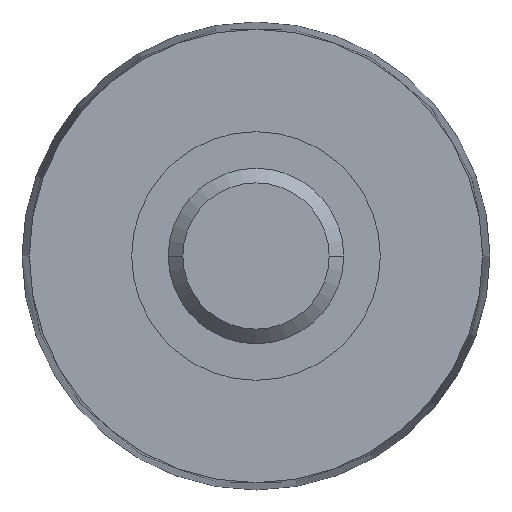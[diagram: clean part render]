
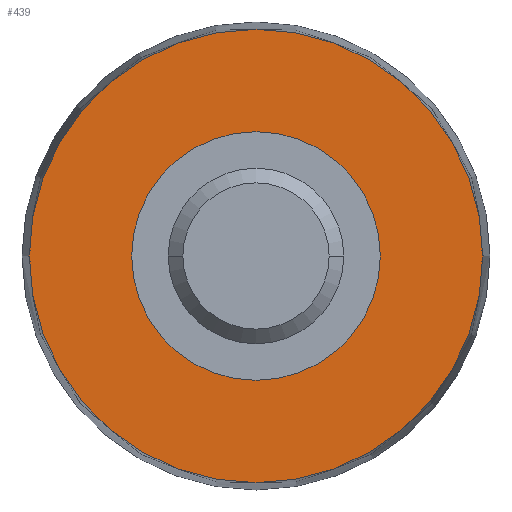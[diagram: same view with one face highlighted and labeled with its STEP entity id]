
A CAD part, left-side view. The second image highlights one B-rep face of the part: STEP entity #439.
In plain terms, the highlighted planar face has unit normal (-1, 0, 0).
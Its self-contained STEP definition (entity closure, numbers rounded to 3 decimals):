
#8 = ORIENTED_EDGE ( 'NONE', *, *, #441, .F. ) ;
#32 = DIRECTION ( 'NONE',  ( 0., 1., 0. ) ) ;
#36 = CARTESIAN_POINT ( 'NONE',  ( -45., -8.5, 0. ) ) ;
#53 = CARTESIAN_POINT ( 'NONE',  ( -45., 0., 0. ) ) ;
#54 = VERTEX_POINT ( 'NONE', #128 ) ;
#55 = DIRECTION ( 'NONE',  ( 0., 1., 0. ) ) ;
#59 = EDGE_LOOP ( 'NONE', ( #645, #337 ) ) ;
#61 = PLANE ( 'NONE',  #563 ) ;
#65 = CARTESIAN_POINT ( 'NONE',  ( -45., 8.5, 0. ) ) ;
#67 = VERTEX_POINT ( 'NONE', #36 ) ;
#68 = VERTEX_POINT ( 'NONE', #533 ) ;
#125 = DIRECTION ( 'NONE',  ( 0., 1., 0. ) ) ;
#128 = CARTESIAN_POINT ( 'NONE',  ( -45., 8.5, 0. ) ) ;
#142 = FACE_OUTER_BOUND ( 'NONE', #407, .T. ) ;
#155 = DIRECTION ( 'NONE',  ( 1., 0., 0. ) ) ;
#159 = EDGE_CURVE ( 'NONE', #179, #68, #270, .T. ) ;
#162 = DIRECTION ( 'NONE',  ( 0., -1., 0. ) ) ;
#179 = VERTEX_POINT ( 'NONE', #246 ) ;
#194 = CARTESIAN_POINT ( 'NONE',  ( -45., 0., 0. ) ) ;
#226 = AXIS2_PLACEMENT_3D ( 'NONE', #194, #602, #32 ) ;
#246 = CARTESIAN_POINT ( 'NONE',  ( -45., 15.5, 0. ) ) ;
#262 = CIRCLE ( 'NONE', #480, 15.5 ) ;
#270 = CIRCLE ( 'NONE', #226, 15.5 ) ;
#272 = ORIENTED_EDGE ( 'NONE', *, *, #159, .F. ) ;
#291 = CIRCLE ( 'NONE', #309, 8.5 ) ;
#307 = EDGE_CURVE ( 'NONE', #54, #67, #377, .T. ) ;
#309 = AXIS2_PLACEMENT_3D ( 'NONE', #415, #516, #55 ) ;
#326 = EDGE_CURVE ( 'NONE', #67, #54, #291, .T. ) ;
#337 = ORIENTED_EDGE ( 'NONE', *, *, #326, .T. ) ;
#377 = CIRCLE ( 'NONE', #410, 8.5 ) ;
#384 = DIRECTION ( 'NONE',  ( 1., 0., 0. ) ) ;
#407 = EDGE_LOOP ( 'NONE', ( #272, #8 ) ) ;
#410 = AXIS2_PLACEMENT_3D ( 'NONE', #53, #155, #455 ) ;
#415 = CARTESIAN_POINT ( 'NONE',  ( -45., 0., 0. ) ) ;
#433 = CARTESIAN_POINT ( 'NONE',  ( -45., 0., 0. ) ) ;
#439 = ADVANCED_FACE ( 'NONE', ( #481, #142 ), #61, .T. ) ;
#441 = EDGE_CURVE ( 'NONE', #68, #179, #262, .T. ) ;
#455 = DIRECTION ( 'NONE',  ( 0., 1., 0. ) ) ;
#467 = DIRECTION ( 'NONE',  ( -1., 0., 0. ) ) ;
#480 = AXIS2_PLACEMENT_3D ( 'NONE', #433, #384, #125 ) ;
#481 = FACE_BOUND ( 'NONE', #59, .T. ) ;
#516 = DIRECTION ( 'NONE',  ( 1., 0., 0. ) ) ;
#533 = CARTESIAN_POINT ( 'NONE',  ( -45., -15.5, 0. ) ) ;
#563 = AXIS2_PLACEMENT_3D ( 'NONE', #65, #467, #162 ) ;
#602 = DIRECTION ( 'NONE',  ( 1., 0., 0. ) ) ;
#645 = ORIENTED_EDGE ( 'NONE', *, *, #307, .T. ) ;
